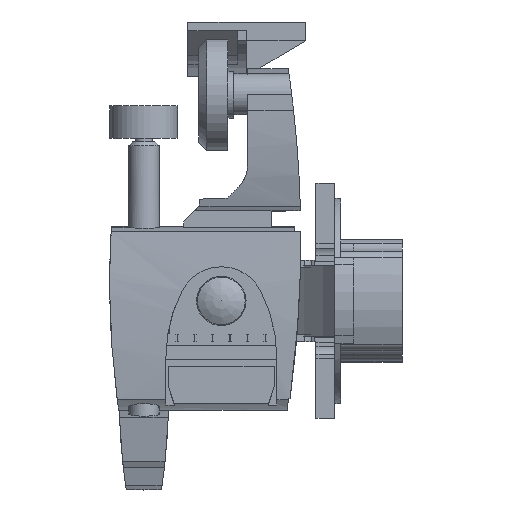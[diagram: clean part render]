
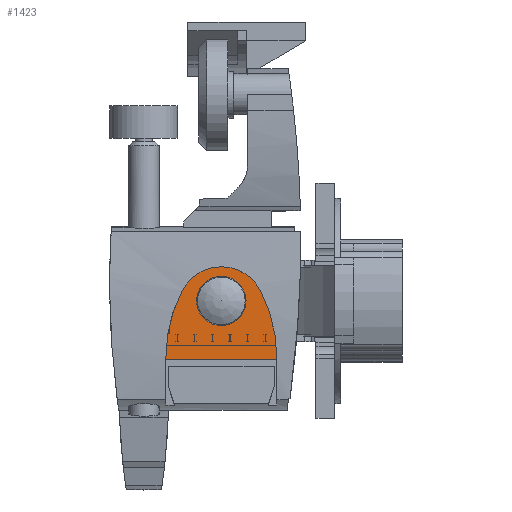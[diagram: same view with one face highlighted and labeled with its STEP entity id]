
A CAD part, left-side view. The second image highlights one B-rep face of the part: STEP entity #1423.
In plain terms, the highlighted planar face has unit normal (-1, 0, 0) as drawn and (1, 0, 0) by its records, which use the part's own axes.
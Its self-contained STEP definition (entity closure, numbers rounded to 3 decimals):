
#1423 = ADVANCED_FACE( '', ( #2927, #2928 ), #2929, .T. );
#2927 = FACE_BOUND( '', #4452, .T. );
#2928 = FACE_OUTER_BOUND( '', #4453, .T. );
#2929 = PLANE( '', #4454 );
#4452 = EDGE_LOOP( '', ( #8736 ) );
#4453 = EDGE_LOOP( '', ( #8737, #8738, #8739, #8740, #8741, #8742, #8743, #8744, #8745, #8746, #8747, #8748, #8749, #8750 ) );
#4454 = AXIS2_PLACEMENT_3D( '', #8751, #8752, #8753 );
#8736 = ORIENTED_EDGE( '', *, *, #9999, .T. );
#8737 = ORIENTED_EDGE( '', *, *, #10605, .F. );
#8738 = ORIENTED_EDGE( '', *, *, #10894, .F. );
#8739 = ORIENTED_EDGE( '', *, *, #10848, .F. );
#8740 = ORIENTED_EDGE( '', *, *, #10945, .F. );
#8741 = ORIENTED_EDGE( '', *, *, #10839, .F. );
#8742 = ORIENTED_EDGE( '', *, *, #10906, .T. );
#8743 = ORIENTED_EDGE( '', *, *, #10204, .T. );
#8744 = ORIENTED_EDGE( '', *, *, #10923, .T. );
#8745 = ORIENTED_EDGE( '', *, *, #9558, .T. );
#8746 = ORIENTED_EDGE( '', *, *, #10353, .T. );
#8747 = ORIENTED_EDGE( '', *, *, #9301, .T. );
#8748 = ORIENTED_EDGE( '', *, *, #10670, .T. );
#8749 = ORIENTED_EDGE( '', *, *, #10175, .T. );
#8750 = ORIENTED_EDGE( '', *, *, #10902, .T. );
#8751 = CARTESIAN_POINT( '', ( 20.15, 0., -1.7 ) );
#8752 = DIRECTION( '', ( 1., 0., 0. ) );
#8753 = DIRECTION( '', ( 0., 0., -1. ) );
#9301 = EDGE_CURVE( '', #11202, #11199, #11203, .T. );
#9558 = EDGE_CURVE( '', #11659, #11656, #11660, .T. );
#9999 = EDGE_CURVE( '', #12392, #12392, #12393, .T. );
#10175 = EDGE_CURVE( '', #12652, #12653, #12654, .T. );
#10204 = EDGE_CURVE( '', #12702, #12700, #12703, .T. );
#10353 = EDGE_CURVE( '', #11656, #11202, #12918, .T. );
#10605 = EDGE_CURVE( '', #13258, #13260, #13261, .T. );
#10670 = EDGE_CURVE( '', #11199, #12652, #13343, .T. );
#10839 = EDGE_CURVE( '', #13538, #13539, #13540, .T. );
#10848 = EDGE_CURVE( '', #13551, #13552, #13553, .T. );
#10894 = EDGE_CURVE( '', #13552, #13258, #13607, .T. );
#10902 = EDGE_CURVE( '', #12653, #13260, #13616, .F. );
#10906 = EDGE_CURVE( '', #13538, #12702, #13621, .F. );
#10923 = EDGE_CURVE( '', #12700, #11659, #13639, .T. );
#10945 = EDGE_CURVE( '', #13539, #13551, #13662, .T. );
#11199 = VERTEX_POINT( '', #13991 );
#11202 = VERTEX_POINT( '', #13995 );
#11203 = CIRCLE( '', #13996, 7.502 );
#11656 = VERTEX_POINT( '', #14699 );
#11659 = VERTEX_POINT( '', #14703 );
#11660 = CIRCLE( '', #14704, 7.502 );
#12392 = VERTEX_POINT( '', #15903 );
#12393 = CIRCLE( '', #15904, 4.2 );
#12652 = VERTEX_POINT( '', #16281 );
#12653 = VERTEX_POINT( '', #16282 );
#12654 = LINE( '', #16283, #16284 );
#12700 = VERTEX_POINT( '', #16350 );
#12702 = VERTEX_POINT( '', #16353 );
#12703 = LINE( '', #16354, #16355 );
#12918 = CIRCLE( '', #16687, 9.616 );
#13258 = VERTEX_POINT( '', #17305 );
#13260 = VERTEX_POINT( '', #17308 );
#13261 = LINE( '', #17309, #17310 );
#13343 = CIRCLE( '', #17425, 24.502 );
#13538 = VERTEX_POINT( '', #17839 );
#13539 = VERTEX_POINT( '', #17840 );
#13540 = LINE( '', #17841, #17842 );
#13551 = VERTEX_POINT( '', #17856 );
#13552 = VERTEX_POINT( '', #17857 );
#13553 = LINE( '', #17858, #17859 );
#13607 = CIRCLE( '', #17996, 24.5 );
#13616 = LINE( '', #18007, #18008 );
#13621 = LINE( '', #18020, #18021 );
#13639 = CIRCLE( '', #18042, 24.502 );
#13662 = CIRCLE( '', #18087, 24.5 );
#13991 = CARTESIAN_POINT( '', ( 20.15, -6.641, 1.789 ) );
#13995 = CARTESIAN_POINT( '', ( 20.15, -0.361, 5.793 ) );
#13996 = AXIS2_PLACEMENT_3D( '', #18270, #18271, #18272 );
#14699 = CARTESIAN_POINT( '', ( 20.15, 0.361, 5.793 ) );
#14703 = CARTESIAN_POINT( '', ( 20.15, 6.641, 1.789 ) );
#14704 = AXIS2_PLACEMENT_3D( '', #18543, #18544, #18545 );
#15903 = CARTESIAN_POINT( '', ( 20.15, 0., 4.2 ) );
#15904 = AXIS2_PLACEMENT_3D( '', #19061, #19062, #19063 );
#16281 = CARTESIAN_POINT( '', ( 20.15, -9.452, -9.606 ) );
#16282 = CARTESIAN_POINT( '', ( 20.15, -9.452, -17.15 ) );
#16283 = CARTESIAN_POINT( '', ( 20.15, -9.452, -9.606 ) );
#16284 = VECTOR( '', #19262, 1000. );
#16350 = CARTESIAN_POINT( '', ( 20.15, 9.452, -9.606 ) );
#16353 = CARTESIAN_POINT( '', ( 20.15, 9.452, -17.15 ) );
#16354 = CARTESIAN_POINT( '', ( 20.15, 9.452, -18.598 ) );
#16355 = VECTOR( '', #19293, 1000. );
#16687 = AXIS2_PLACEMENT_3D( '', #19437, #19438, #19439 );
#17305 = CARTESIAN_POINT( '', ( 20.15, -9.45, -10.926 ) );
#17308 = CARTESIAN_POINT( '', ( 20.15, -9.45, -17.15 ) );
#17309 = CARTESIAN_POINT( '', ( 20.15, -9.45, -1.7 ) );
#17310 = VECTOR( '', #19687, 1000. );
#17425 = AXIS2_PLACEMENT_3D( '', #19748, #19749, #19750 );
#17839 = CARTESIAN_POINT( '', ( 20.15, 9.45, -17.15 ) );
#17840 = CARTESIAN_POINT( '', ( 20.15, 9.45, -10.926 ) );
#17841 = CARTESIAN_POINT( '', ( 20.15, 9.45, -1.7 ) );
#17842 = VECTOR( '', #19891, 1000. );
#17856 = CARTESIAN_POINT( '', ( 20.15, 9.412, -10. ) );
#17857 = CARTESIAN_POINT( '', ( 20.15, -9.412, -10. ) );
#17858 = CARTESIAN_POINT( '', ( 20.15, 0., -10. ) );
#17859 = VECTOR( '', #19898, 1000. );
#17996 = AXIS2_PLACEMENT_3D( '', #19937, #19938, #19939 );
#18007 = CARTESIAN_POINT( '', ( 20.15, 13.5, -17.15 ) );
#18008 = VECTOR( '', #19945, 1000. );
#18020 = CARTESIAN_POINT( '', ( 20.15, 13.5, -17.15 ) );
#18021 = VECTOR( '', #19948, 1000. );
#18042 = AXIS2_PLACEMENT_3D( '', #19961, #19962, #19963 );
#18087 = AXIS2_PLACEMENT_3D( '', #19975, #19976, #19977 );
#18270 = CARTESIAN_POINT( '', ( 20.15, 0., -1.7 ) );
#18271 = DIRECTION( '', ( 1., 0., 0. ) );
#18272 = DIRECTION( '', ( 0., 0., -1. ) );
#18543 = CARTESIAN_POINT( '', ( 20.15, 0., -1.7 ) );
#18544 = DIRECTION( '', ( 1., 0., 0. ) );
#18545 = DIRECTION( '', ( 0., 0., -1. ) );
#19061 = CARTESIAN_POINT( '', ( 20.15, 0., 0. ) );
#19062 = DIRECTION( '', ( -1., 0., 0. ) );
#19063 = DIRECTION( '', ( 0., 0., 1. ) );
#19262 = DIRECTION( '', ( 0., 0., -1. ) );
#19293 = DIRECTION( '', ( 0., 0., 1. ) );
#19437 = CARTESIAN_POINT( '', ( 20.15, 0., -3.816 ) );
#19438 = DIRECTION( '', ( 1., 0., 0. ) );
#19439 = DIRECTION( '', ( 0., 0., -1. ) );
#19687 = DIRECTION( '', ( 0., 0., -1. ) );
#19748 = CARTESIAN_POINT( '', ( 20.15, 15.05, -9.606 ) );
#19749 = DIRECTION( '', ( 1., 0., 0. ) );
#19750 = DIRECTION( '', ( 0., 0., -1. ) );
#19891 = DIRECTION( '', ( 0., 0., 1. ) );
#19898 = DIRECTION( '', ( 0., -1., 0. ) );
#19937 = CARTESIAN_POINT( '', ( 20.15, 15.044, -11.463 ) );
#19938 = DIRECTION( '', ( 1., 0., 0. ) );
#19939 = DIRECTION( '', ( 0., 0., -1. ) );
#19945 = DIRECTION( '', ( 0., -1., 0. ) );
#19948 = DIRECTION( '', ( 0., -1., 0. ) );
#19961 = CARTESIAN_POINT( '', ( 20.15, -15.05, -9.606 ) );
#19962 = DIRECTION( '', ( 1., 0., 0. ) );
#19963 = DIRECTION( '', ( 0., 0., -1. ) );
#19975 = CARTESIAN_POINT( '', ( 20.15, -15.044, -11.463 ) );
#19976 = DIRECTION( '', ( 1., 0., 0. ) );
#19977 = DIRECTION( '', ( 0., 0., -1. ) );
